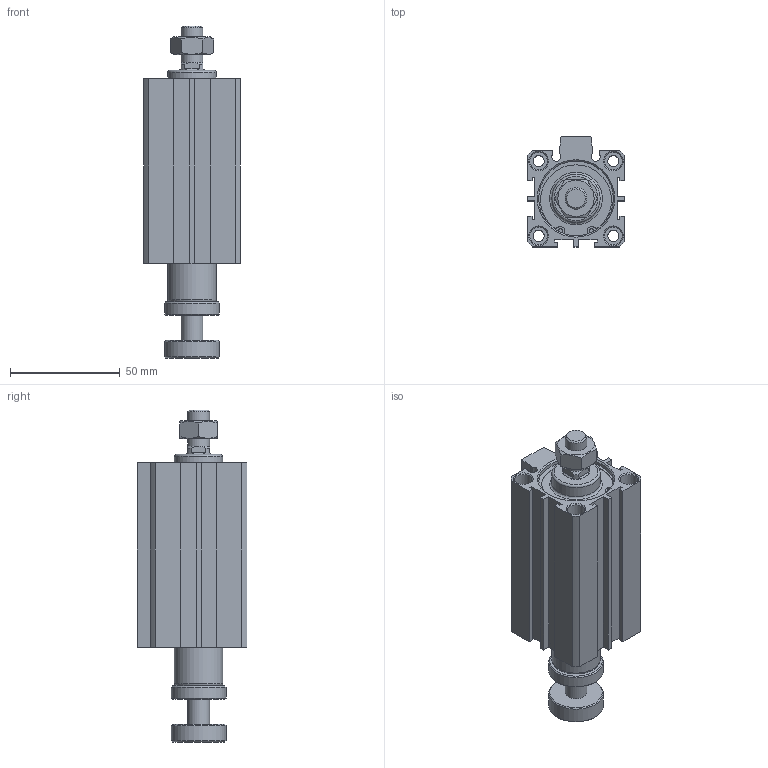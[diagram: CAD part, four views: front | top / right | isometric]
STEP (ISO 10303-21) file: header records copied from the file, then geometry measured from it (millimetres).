
FILE_DESCRIPTION((''),'2;1');
FILE_NAME('I:\3D電子目錄\氣缸\JDAR\JDAR-B\JDAR32-B\JDAR32x60-B.stp','2007-03-14T13:55:03',('662F206'),(''),'Autodesk Inventor 11','Autodesk Inventor 11','');
FILE_SCHEMA(('AUTOMOTIVE_DESIGN { 1 0 10303 214 1 1 1 1 }'));
Length unit declared in the file: millimetre
Products named in the file (3): JDAR32-B; R 形環 35
Assembly tree (3 placements, depth 2):
  JDAR32-B
    JDAR32-B
    R 形環 35  x2
Bounding box: 44 x 50 x 151.1 mm (x, y, z)
Volume: 159507.6 mm3; surface area: 39903.6 mm2
Topology: 3 solids, 3 shells, 180 faces, 421 edges, 273 vertices
Faces by surface type: plane 98, cylinder 53, cone 25, bspline 2, torus 2
Full cylindrical faces by diameter (mm): 1.9 x4, 2.2 x2, 5.1 x4, 8 x8, 10 x3, 22 x2, 25 x2, 34 x4, 36 x2
Entity records: 4639 total; most frequent: CARTESIAN_POINT 882, DIRECTION 784, ORIENTED_EDGE 664, EDGE_CURVE 332, AXIS2_PLACEMENT_3D 300, EDGE_LOOP 260, VERTEX_POINT 248, VECTOR 184
